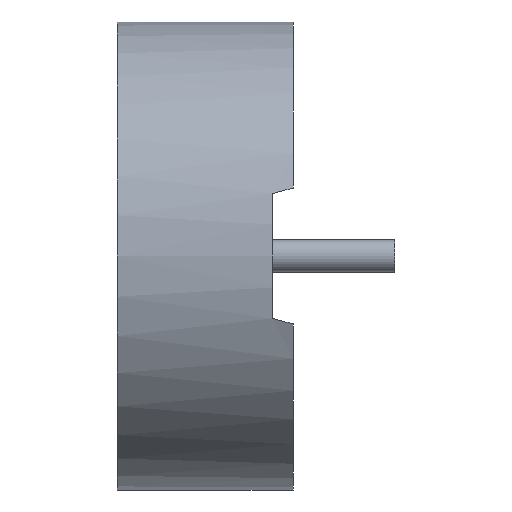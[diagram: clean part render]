
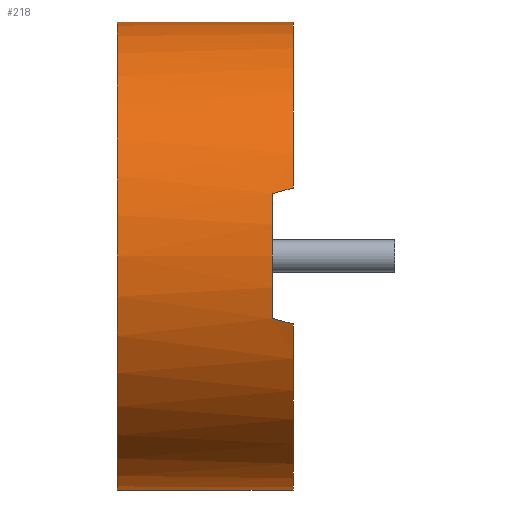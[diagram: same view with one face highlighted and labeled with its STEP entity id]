
A CAD part, left-side view. The second image highlights one B-rep face of the part: STEP entity #218.
In plain terms, the highlighted cylindrical face has radius 14.287 mm (diameter 28.575 mm), a partial arc.
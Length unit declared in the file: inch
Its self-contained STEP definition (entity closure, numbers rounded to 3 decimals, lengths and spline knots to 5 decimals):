
#55 = CARTESIAN_POINT ( 'NONE',  ( -0.54089, 0.03327, 0.15448 ) ) ;
#56 = CARTESIAN_POINT ( 'NONE',  ( 0., 0., 0.5625 ) ) ;
#59 = CARTESIAN_POINT ( 'NONE',  ( -0.54213, 0.05, 0.15 ) ) ;
#65 = VERTEX_POINT ( 'NONE', #885 ) ;
#73 = CARTESIAN_POINT ( 'NONE',  ( -0.53824, 0., 0.1634 ) ) ;
#74 = CARTESIAN_POINT ( 'NONE',  ( -0.5396, 0.01661, 0.15895 ) ) ;
#97 = EDGE_CURVE ( 'NONE', #102, #926, #446, .T. ) ;
#98 = ORIENTED_EDGE ( 'NONE', *, *, #1261, .F. ) ;
#102 = VERTEX_POINT ( 'NONE', #659 ) ;
#167 = LINE ( 'NONE', #487, #813 ) ;
#178 = CARTESIAN_POINT ( 'NONE',  ( -0.53824, 0., -0.1634 ) ) ;
#186 = CARTESIAN_POINT ( 'NONE',  ( 0., 0.423, 0.5625 ) ) ;
#200 = CARTESIAN_POINT ( 'NONE',  ( -0.54213, 0.05, -0.15 ) ) ;
#218 = ADVANCED_FACE ( 'NONE', ( #1040 ), #790, .T. ) ;
#227 = EDGE_CURVE ( 'NONE', #1183, #788, #427, .T. ) ;
#278 = CARTESIAN_POINT ( 'NONE',  ( -0.54089, 0.03327, -0.15448 ) ) ;
#280 = CARTESIAN_POINT ( 'NONE',  ( -0.54213, 0.05, -0.15 ) ) ;
#288 = CARTESIAN_POINT ( 'NONE',  ( -0.53824, 0., 0.1634 ) ) ;
#328 = VERTEX_POINT ( 'NONE', #948 ) ;
#376 = EDGE_LOOP ( 'NONE', ( #714, #98, #911, #539, #895, #827, #537, #851 ) ) ;
#391 = CARTESIAN_POINT ( 'NONE',  ( 0., 0.423, -0.5625 ) ) ;
#412 = DIRECTION ( 'NONE',  ( 0., 0., 1. ) ) ;
#422 = DIRECTION ( 'NONE',  ( 0., 1., 0. ) ) ;
#427 = CIRCLE ( 'NONE', #910, 0.5625 ) ;
#434 = DIRECTION ( 'NONE',  ( 0., 0., 1. ) ) ;
#436 = DIRECTION ( 'NONE',  ( 0., 1., 0. ) ) ;
#446 = LINE ( 'NONE', #391, #789 ) ;
#468 = DIRECTION ( 'NONE',  ( 0., -1., 0. ) ) ;
#487 = CARTESIAN_POINT ( 'NONE',  ( 0., 0.423, 0.5625 ) ) ;
#514 = EDGE_CURVE ( 'NONE', #1112, #65, #636, .T. ) ;
#537 = ORIENTED_EDGE ( 'NONE', *, *, #915, .T. ) ;
#539 = ORIENTED_EDGE ( 'NONE', *, *, #1228, .T. ) ;
#556 = CIRCLE ( 'NONE', #1213, 0.5625 ) ;
#603 = DIRECTION ( 'NONE',  ( 0., 0., 1. ) ) ;
#607 = DIRECTION ( 'NONE',  ( 0., 1., 0. ) ) ;
#612 = CARTESIAN_POINT ( 'NONE',  ( 0., 0.05, 0. ) ) ;
#636 = CIRCLE ( 'NONE', #742, 0.5625 ) ;
#659 = CARTESIAN_POINT ( 'NONE',  ( 0., 0.423, -0.5625 ) ) ;
#714 = ORIENTED_EDGE ( 'NONE', *, *, #831, .F. ) ;
#742 = AXIS2_PLACEMENT_3D ( 'NONE', #612, #607, #603 ) ;
#765 = VERTEX_POINT ( 'NONE', #186 ) ;
#775 = CARTESIAN_POINT ( 'NONE',  ( -0.5396, 0.01661, -0.15895 ) ) ;
#788 = VERTEX_POINT ( 'NONE', #56 ) ;
#789 = VECTOR ( 'NONE', #939, 39.37008 ) ;
#790 = CYLINDRICAL_SURFACE ( 'NONE', #1093, 0.5625 ) ;
#813 = VECTOR ( 'NONE', #468, 39.37008 ) ;
#827 = ORIENTED_EDGE ( 'NONE', *, *, #514, .T. ) ;
#831 = EDGE_CURVE ( 'NONE', #765, #788, #167, .T. ) ;
#851 = ORIENTED_EDGE ( 'NONE', *, *, #227, .T. ) ;
#857 = EDGE_CURVE ( 'NONE', #328, #1112, #883, .T. ) ;
#867 =( BOUNDED_CURVE ( )  B_SPLINE_CURVE ( 3, ( #59, #55, #74, #73 ),
 .UNSPECIFIED., .F., .T. ) 
 B_SPLINE_CURVE_WITH_KNOTS ( ( 4, 4 ),
 ( 4.98232, 5.00713 ),
 .UNSPECIFIED. ) 
 CURVE ( )  GEOMETRIC_REPRESENTATION_ITEM ( )  RATIONAL_B_SPLINE_CURVE ( ( 1., 1., 1., 1. ) ) 
 REPRESENTATION_ITEM ( '' )  );
#868 = AXIS2_PLACEMENT_3D ( 'NONE', #894, #1120, #412 ) ;
#883 =( BOUNDED_CURVE ( )  B_SPLINE_CURVE ( 3, ( #178, #775, #278, #280 ),
 .UNSPECIFIED., .F., .T. ) 
 B_SPLINE_CURVE_WITH_KNOTS ( ( 4, 4 ),
 ( 1.27606, 1.30086 ),
 .UNSPECIFIED. ) 
 CURVE ( )  GEOMETRIC_REPRESENTATION_ITEM ( )  RATIONAL_B_SPLINE_CURVE ( ( 1., 1., 1., 1. ) ) 
 REPRESENTATION_ITEM ( '' )  );
#885 = CARTESIAN_POINT ( 'NONE',  ( -0.54213, 0.05, 0.15 ) ) ;
#894 = CARTESIAN_POINT ( 'NONE',  ( 0., 0., 0. ) ) ;
#895 = ORIENTED_EDGE ( 'NONE', *, *, #857, .T. ) ;
#910 = AXIS2_PLACEMENT_3D ( 'NONE', #1285, #422, #1280 ) ;
#911 = ORIENTED_EDGE ( 'NONE', *, *, #97, .T. ) ;
#912 = CARTESIAN_POINT ( 'NONE',  ( 0., 0.423, 0. ) ) ;
#915 = EDGE_CURVE ( 'NONE', #65, #1183, #867, .T. ) ;
#926 = VERTEX_POINT ( 'NONE', #986 ) ;
#939 = DIRECTION ( 'NONE',  ( 0., -1., 0. ) ) ;
#948 = CARTESIAN_POINT ( 'NONE',  ( -0.53824, 0., -0.1634 ) ) ;
#956 = DIRECTION ( 'NONE',  ( 0., 0., -1. ) ) ;
#961 = DIRECTION ( 'NONE',  ( 0., -1., 0. ) ) ;
#986 = CARTESIAN_POINT ( 'NONE',  ( 0., 0., -0.5625 ) ) ;
#1040 = FACE_OUTER_BOUND ( 'NONE', #376, .T. ) ;
#1093 = AXIS2_PLACEMENT_3D ( 'NONE', #1251, #961, #956 ) ;
#1112 = VERTEX_POINT ( 'NONE', #200 ) ;
#1120 = DIRECTION ( 'NONE',  ( 0., 1., 0. ) ) ;
#1175 = CIRCLE ( 'NONE', #868, 0.5625 ) ;
#1183 = VERTEX_POINT ( 'NONE', #288 ) ;
#1213 = AXIS2_PLACEMENT_3D ( 'NONE', #912, #436, #434 ) ;
#1228 = EDGE_CURVE ( 'NONE', #926, #328, #1175, .T. ) ;
#1251 = CARTESIAN_POINT ( 'NONE',  ( 0., 0.423, 0. ) ) ;
#1261 = EDGE_CURVE ( 'NONE', #102, #765, #556, .T. ) ;
#1280 = DIRECTION ( 'NONE',  ( 0., 0., 1. ) ) ;
#1285 = CARTESIAN_POINT ( 'NONE',  ( 0., 0., 0. ) ) ;
